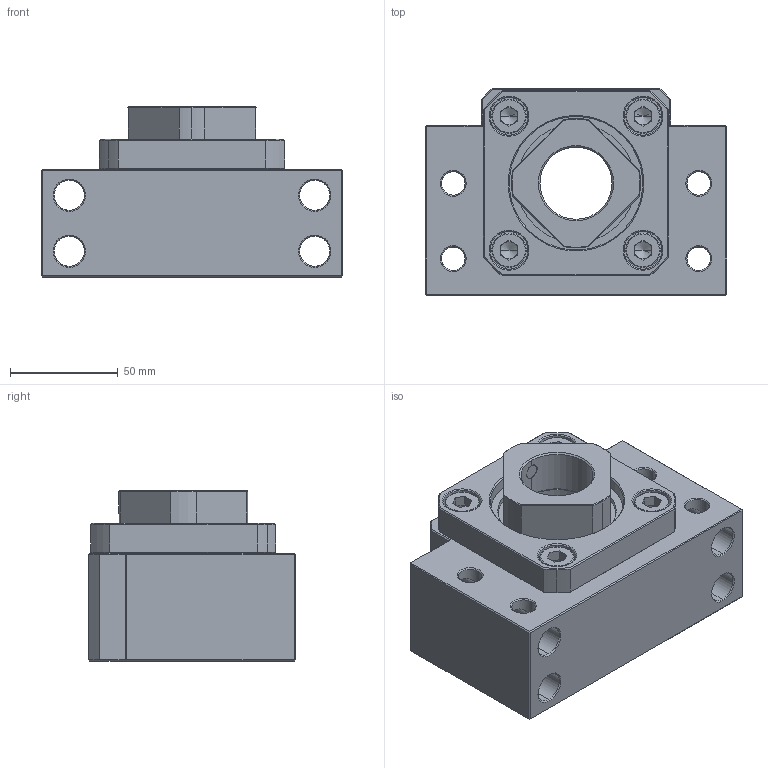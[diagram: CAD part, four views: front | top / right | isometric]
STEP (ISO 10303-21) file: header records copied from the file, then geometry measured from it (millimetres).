
FILE_DESCRIPTION (( 'STEP AP203' ), '1' );
FILE_NAME ('BSGK-35_203.STEP', '2013-02-26T01:23:35', ( '' ), ( '' ), 'SwSTEP 2.0', 'SolidWorks 2012', '' );
FILE_SCHEMA (( 'CONFIG_CONTROL_DESIGN' ));
Length unit declared in the file: millimetre
Products named in the file (1): BSGK-35_203
Bounding box: 140 x 96 x 79 mm (x, y, z)
Volume: 604203.5 mm3; surface area: 96802.3 mm2
Topology: 1 solids, 16 shells, 470 faces, 1077 edges, 628 vertices
Faces by surface type: plane 167, cylinder 143, cone 120, torus 40
Entity records: 14569 total; most frequent: CARTESIAN_POINT 3815, DIRECTION 2350, ORIENTED_EDGE 2118, EDGE_CURVE 1059, AXIS2_PLACEMENT_3D 923, VERTEX_POINT 628, EDGE_LOOP 531, VECTOR 504
